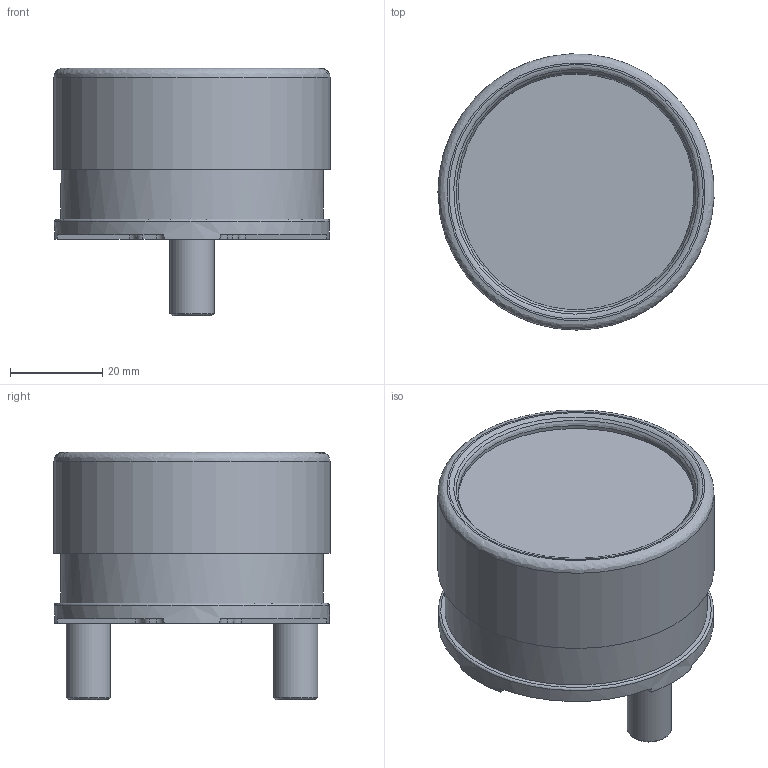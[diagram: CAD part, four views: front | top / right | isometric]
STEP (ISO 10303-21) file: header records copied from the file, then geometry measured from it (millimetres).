
FILE_DESCRIPTION(/* description */ (''),/* implementation_level */ '2;1');
FILE_NAME(/* name */ '49',/* time_stamp */ '2022-06-30T10:47:41+02:00',/* author */ (''),/* organization */ (''),/* preprocessor_version */ 'ST-DEVELOPER v16.5',/* originating_system */ 'Rhino 7.20',/* authorisation */ '');
FILE_SCHEMA (('AUTOMOTIVE_DESIGN_CC2'));
Length unit declared in the file: millimetre
Products named in the file (1): Document
Bounding box: 59.97 x 59.97 x 53.8 mm (x, y, z)
Volume: 96770.8 mm3; surface area: 14344.8 mm2
Topology: 1 solids, 1 shells, 71 faces, 162 edges, 104 vertices
Faces by surface type: plane 34, bspline 22, cylinder 15
Full cylindrical faces by diameter (mm): 4.2 x2, 5 x3, 9.64 x2, 51.2 x1, 57 x1, 59.8 x1, 60 x1
Entity records: 2177 total; most frequent: CARTESIAN_POINT 1085, ORIENTED_EDGE 324, EDGE_CURVE 162, VERTEX_POINT 104, B_SPLINE_CURVE_WITH_KNOTS 86, EDGE_LOOP 82, ADVANCED_FACE 71, FACE_OUTER_BOUND 71
